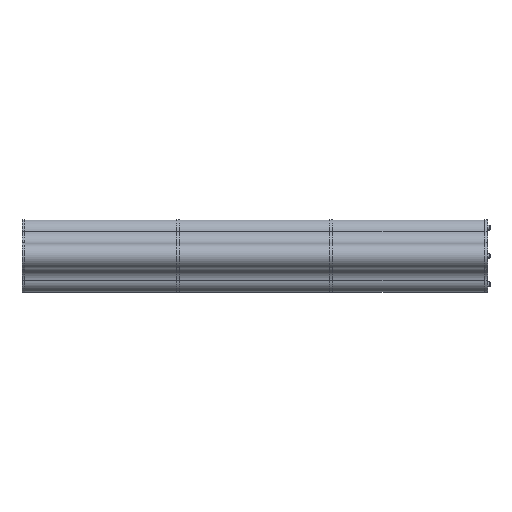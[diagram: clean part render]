
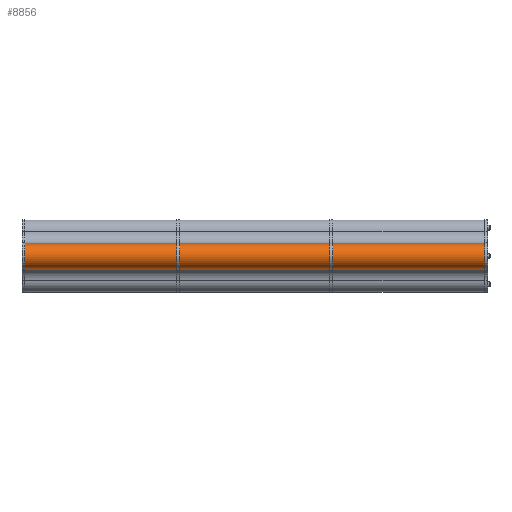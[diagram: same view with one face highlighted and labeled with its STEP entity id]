
A CAD part, left-side view. The second image highlights one B-rep face of the part: STEP entity #8856.
In plain terms, the highlighted cylindrical face has radius 38.5 mm (diameter 77 mm), a partial arc.
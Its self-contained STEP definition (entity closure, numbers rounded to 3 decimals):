
#33 = VECTOR ( 'NONE', #2777, 1000. ) ;
#124 = CIRCLE ( 'NONE', #4655, 38.5 ) ;
#308 = EDGE_CURVE ( 'NONE', #8880, #8233, #4649, .T. ) ;
#347 = VERTEX_POINT ( 'NONE', #1302 ) ;
#577 = EDGE_LOOP ( 'NONE', ( #5126, #6131, #7355, #3497 ) ) ;
#1050 = DIRECTION ( 'NONE',  ( 0., 0., 1. ) ) ;
#1302 = CARTESIAN_POINT ( 'NONE',  ( -74.543, 1400., 38.231 ) ) ;
#1404 = EDGE_CURVE ( 'NONE', #8880, #347, #124, .T. ) ;
#1464 = DIRECTION ( 'NONE',  ( 0., 0., 1. ) ) ;
#2163 = CARTESIAN_POINT ( 'NONE',  ( -74.543, 1400., -38.231 ) ) ;
#2746 = FACE_OUTER_BOUND ( 'NONE', #577, .T. ) ;
#2777 = DIRECTION ( 'NONE',  ( 0., -1., 0. ) ) ;
#3352 = CARTESIAN_POINT ( 'NONE',  ( -70., 1400., 0. ) ) ;
#3497 = ORIENTED_EDGE ( 'NONE', *, *, #308, .T. ) ;
#3562 = CYLINDRICAL_SURFACE ( 'NONE', #6400, 38.5 ) ;
#3607 = DIRECTION ( 'NONE',  ( 0., -1., 0. ) ) ;
#3657 = CARTESIAN_POINT ( 'NONE',  ( -70., 1400., 0. ) ) ;
#3696 = CARTESIAN_POINT ( 'NONE',  ( -74.543, 1400., -38.231 ) ) ;
#3724 = DIRECTION ( 'NONE',  ( 0., -1., 0. ) ) ;
#3942 = CARTESIAN_POINT ( 'NONE',  ( -74.543, 0., 38.231 ) ) ;
#4474 = CARTESIAN_POINT ( 'NONE',  ( -70., 0., 0. ) ) ;
#4649 = LINE ( 'NONE', #2163, #33 ) ;
#4655 = AXIS2_PLACEMENT_3D ( 'NONE', #3352, #6341, #1050 ) ;
#4698 = LINE ( 'NONE', #6608, #6173 ) ;
#4728 = CIRCLE ( 'NONE', #4856, 38.5 ) ;
#4856 = AXIS2_PLACEMENT_3D ( 'NONE', #4474, #5078, #1464 ) ;
#5078 = DIRECTION ( 'NONE',  ( 0., 1., 0. ) ) ;
#5126 = ORIENTED_EDGE ( 'NONE', *, *, #5473, .T. ) ;
#5473 = EDGE_CURVE ( 'NONE', #8233, #7395, #4728, .T. ) ;
#6131 = ORIENTED_EDGE ( 'NONE', *, *, #7695, .F. ) ;
#6173 = VECTOR ( 'NONE', #3607, 1000. ) ;
#6341 = DIRECTION ( 'NONE',  ( 0., 1., 0. ) ) ;
#6400 = AXIS2_PLACEMENT_3D ( 'NONE', #3657, #3724, #8182 ) ;
#6608 = CARTESIAN_POINT ( 'NONE',  ( -74.543, 1400., 38.231 ) ) ;
#7355 = ORIENTED_EDGE ( 'NONE', *, *, #1404, .F. ) ;
#7395 = VERTEX_POINT ( 'NONE', #3942 ) ;
#7658 = CARTESIAN_POINT ( 'NONE',  ( -74.543, 0., -38.231 ) ) ;
#7695 = EDGE_CURVE ( 'NONE', #347, #7395, #4698, .T. ) ;
#8182 = DIRECTION ( 'NONE',  ( 0., 0., -1. ) ) ;
#8233 = VERTEX_POINT ( 'NONE', #7658 ) ;
#8856 = ADVANCED_FACE ( 'NONE', ( #2746 ), #3562, .T. ) ;
#8880 = VERTEX_POINT ( 'NONE', #3696 ) ;
